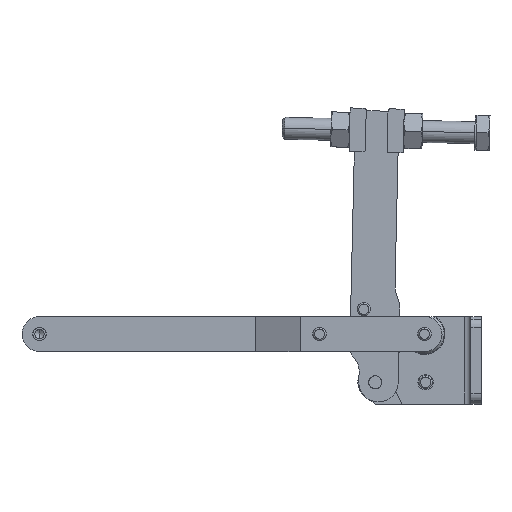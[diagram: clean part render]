
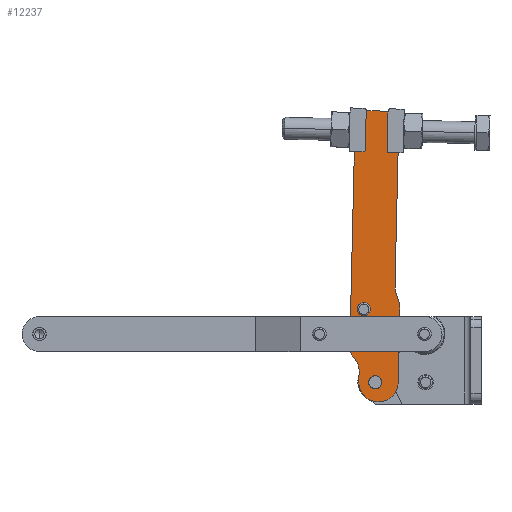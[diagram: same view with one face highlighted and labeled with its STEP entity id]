
A CAD part, left-side view. The second image highlights one B-rep face of the part: STEP entity #12237.
In plain terms, the highlighted planar face has unit normal (-1, 0, 0) as drawn and (0, 0, -1) by its records, which use the part's own axes.
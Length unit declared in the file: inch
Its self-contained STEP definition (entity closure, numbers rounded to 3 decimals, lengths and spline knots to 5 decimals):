
#11806=CARTESIAN_POINT('',(2.743,0.36711,0.0));
#11807=VERTEX_POINT('',#11806);
#11823=CARTESIAN_POINT('',(2.931,0.36711,0.0));
#11824=VERTEX_POINT('',#11823);
#11831=CARTESIAN_POINT('',(2.837,0.36711,0.0));
#11832=DIRECTION('',(0.0,0.0,1.0));
#11833=DIRECTION('',(-1.0,0.0,0.0));
#11834=AXIS2_PLACEMENT_3D('',#11831,#11832,#11833);
#11835=CIRCLE('',#11834,0.094);
#11836=EDGE_CURVE('',#11807,#11824,#11835,.T.);
#11848=CARTESIAN_POINT('',(3.78,0.18011,0.0));
#11849=VERTEX_POINT('',#11848);
#11865=CARTESIAN_POINT('',(3.97,0.18011,0.0));
#11866=VERTEX_POINT('',#11865);
#11873=CARTESIAN_POINT('',(3.875,0.18011,0.0));
#11874=DIRECTION('',(0.0,0.0,1.0));
#11875=DIRECTION('',(-1.0,0.0,0.0));
#11876=AXIS2_PLACEMENT_3D('',#11873,#11874,#11875);
#11877=CIRCLE('',#11876,0.095);
#11878=EDGE_CURVE('',#11849,#11866,#11877,.T.);
#11890=CARTESIAN_POINT('',(3.092,0.24211,0.0));
#11891=VERTEX_POINT('',#11890);
#11907=CARTESIAN_POINT('',(3.282,0.24211,0.0));
#11908=VERTEX_POINT('',#11907);
#11915=CARTESIAN_POINT('',(3.187,0.24211,0.0));
#11916=DIRECTION('',(0.0,0.0,1.0));
#11917=DIRECTION('',(-1.0,0.0,0.0));
#11918=AXIS2_PLACEMENT_3D('',#11915,#11916,#11917);
#11919=CIRCLE('',#11918,0.095);
#11920=EDGE_CURVE('',#11891,#11908,#11919,.T.);
#11930=CARTESIAN_POINT('',(2.56826,-0.07985,0.0));
#11931=VERTEX_POINT('',#11930);
#11940=CARTESIAN_POINT('',(2.65645,-0.10895,0.0));
#11941=VERTEX_POINT('',#11940);
#11942=CARTESIAN_POINT('',(2.47591,-0.50801,0.0));
#11943=DIRECTION('',(0.0,0.0,-1.));
#11944=DIRECTION('',(0.211,0.978,0.0));
#11945=AXIS2_PLACEMENT_3D('',#11942,#11943,#11944);
#11946=CIRCLE('',#11945,0.438);
#11947=EDGE_CURVE('',#11931,#11941,#11946,.T.);
#11972=CARTESIAN_POINT('',(0.01845,0.53666,0.0));
#11973=VERTEX_POINT('',#11972);
#11982=CARTESIAN_POINT('',(0.,0.49211,0.0));
#11983=VERTEX_POINT('',#11982);
#11984=CARTESIAN_POINT('',(0.063,0.49211,0.0));
#11985=DIRECTION('',(0.0,0.0,1.));
#11986=DIRECTION('',(-0.707,0.707,0.0));
#11987=AXIS2_PLACEMENT_3D('',#11984,#11985,#11986);
#11988=CIRCLE('',#11987,0.063);
#11989=EDGE_CURVE('',#11973,#11983,#11988,.T.);
#12014=CARTESIAN_POINT('',(0.01845,-0.05155,0.0));
#12015=VERTEX_POINT('',#12014);
#12024=CARTESIAN_POINT('',(0.063,-0.07001,0.0));
#12025=VERTEX_POINT('',#12024);
#12026=CARTESIAN_POINT('',(0.063,-0.00701,0.0));
#12027=DIRECTION('',(0.0,0.0,1.));
#12028=DIRECTION('',(-0.707,-0.707,0.0));
#12029=AXIS2_PLACEMENT_3D('',#12026,#12027,#12028);
#12030=CIRCLE('',#12029,0.063);
#12031=EDGE_CURVE('',#12015,#12025,#12030,.T.);
#12066=CARTESIAN_POINT('',(0.,-0.00701,0.0));
#12067=VERTEX_POINT('',#12066);
#12074=CARTESIAN_POINT('',(0.063,-0.00701,0.0));
#12075=DIRECTION('',(0.0,0.0,1.));
#12076=DIRECTION('',(-0.707,-0.707,0.0));
#12077=AXIS2_PLACEMENT_3D('',#12074,#12075,#12076);
#12078=CIRCLE('',#12077,0.063);
#12079=EDGE_CURVE('',#12067,#12015,#12078,.T.);
#12090=CARTESIAN_POINT('',(2.47591,-0.07001,0.0));
#12091=VERTEX_POINT('',#12090);
#12092=CARTESIAN_POINT('',(2.47591,-0.07001,0.0));
#12093=DIRECTION('',(-1.0,0.0,0.0));
#12094=VECTOR('',#12093,2.41291);
#12095=LINE('',#12092,#12094);
#12096=EDGE_CURVE('',#12091,#12025,#12095,.T.);
#12115=CARTESIAN_POINT('',(2.01535,0.21762,0.0));
#12116=DIRECTION('',(0.0,0.0,1.0));
#12117=DIRECTION('',(1.0,0.0,0.0));
#12118=AXIS2_PLACEMENT_3D('',#12115,#12116,#12117);
#12119=PLANE('',#12118);
#12120=ORIENTED_EDGE('',*,*,#12079,.F.);
#12121=CARTESIAN_POINT('',(0.,-0.00701,0.0));
#12122=DIRECTION('',(0.0,1.0,0.0));
#12123=VECTOR('',#12122,0.49912);
#12124=LINE('',#12121,#12123);
#12125=EDGE_CURVE('',#12067,#11983,#12124,.T.);
#12126=ORIENTED_EDGE('',*,*,#12125,.T.);
#12127=ORIENTED_EDGE('',*,*,#11989,.F.);
#12128=CARTESIAN_POINT('',(0.063,0.55511,0.0));
#12129=VERTEX_POINT('',#12128);
#12130=CARTESIAN_POINT('',(0.063,0.49211,0.0));
#12131=DIRECTION('',(0.0,0.0,1.));
#12132=DIRECTION('',(-0.707,0.707,0.0));
#12133=AXIS2_PLACEMENT_3D('',#12130,#12131,#12132);
#12134=CIRCLE('',#12133,0.063);
#12135=EDGE_CURVE('',#12129,#11973,#12134,.T.);
#12136=ORIENTED_EDGE('',*,*,#12135,.F.);
#12137=CARTESIAN_POINT('',(3.375,0.55511,0.0));
#12138=VERTEX_POINT('',#12137);
#12139=CARTESIAN_POINT('',(0.063,0.55511,0.0));
#12140=DIRECTION('',(1.0,0.0,0.0));
#12141=VECTOR('',#12140,3.312);
#12142=LINE('',#12139,#12141);
#12143=EDGE_CURVE('',#12129,#12138,#12142,.T.);
#12144=ORIENTED_EDGE('',*,*,#12143,.T.);
#12145=CARTESIAN_POINT('',(3.55756,0.4759,0.0));
#12146=VERTEX_POINT('',#12145);
#12147=CARTESIAN_POINT('',(3.375,0.30511,0.0));
#12148=DIRECTION('',(0.0,0.0,-1.));
#12149=DIRECTION('',(-0.73,-0.683,0.0));
#12150=AXIS2_PLACEMENT_3D('',#12147,#12148,#12149);
#12151=CIRCLE('',#12150,0.25);
#12152=EDGE_CURVE('',#12138,#12146,#12151,.T.);
#12153=ORIENTED_EDGE('',*,*,#12152,.T.);
#12154=CARTESIAN_POINT('',(3.72212,0.41411,0.0));
#12155=VERTEX_POINT('',#12154);
#12156=CARTESIAN_POINT('',(3.72212,0.66411,0.0));
#12157=DIRECTION('',(0.0,0.0,1.));
#12158=DIRECTION('',(-0.658,-0.753,0.0));
#12159=AXIS2_PLACEMENT_3D('',#12156,#12157,#12158);
#12160=CIRCLE('',#12159,0.25);
#12161=EDGE_CURVE('',#12146,#12155,#12160,.T.);
#12162=ORIENTED_EDGE('',*,*,#12161,.T.);
#12163=CARTESIAN_POINT('',(3.875,0.41411,0.0));
#12164=VERTEX_POINT('',#12163);
#12165=CARTESIAN_POINT('',(3.72212,0.41411,0.0));
#12166=DIRECTION('',(1.0,0.0,0.0));
#12167=VECTOR('',#12166,0.15288);
#12168=LINE('',#12165,#12167);
#12169=EDGE_CURVE('',#12155,#12164,#12168,.T.);
#12170=ORIENTED_EDGE('',*,*,#12169,.T.);
#12171=CARTESIAN_POINT('',(3.875,-0.14789,0.0));
#12172=VERTEX_POINT('',#12171);
#12173=CARTESIAN_POINT('',(3.875,0.13311,0.0));
#12174=DIRECTION('',(0.0,0.0,-1.0));
#12175=DIRECTION('',(0.0,1.0,0.0));
#12176=AXIS2_PLACEMENT_3D('',#12173,#12174,#12175);
#12177=CIRCLE('',#12176,0.281);
#12178=EDGE_CURVE('',#12164,#12172,#12177,.T.);
#12179=ORIENTED_EDGE('',*,*,#12178,.T.);
#12180=CARTESIAN_POINT('',(2.837,-0.14789,0.0));
#12181=VERTEX_POINT('',#12180);
#12182=CARTESIAN_POINT('',(3.875,-0.14789,0.0));
#12183=DIRECTION('',(-1.0,0.0,0.0));
#12184=VECTOR('',#12183,1.038);
#12185=LINE('',#12182,#12184);
#12186=EDGE_CURVE('',#12172,#12181,#12185,.T.);
#12187=ORIENTED_EDGE('',*,*,#12186,.T.);
#12188=CARTESIAN_POINT('',(2.837,0.29011,0.0));
#12189=DIRECTION('',(0.0,0.0,-1.0));
#12190=DIRECTION('',(0.569,0.822,0.0));
#12191=AXIS2_PLACEMENT_3D('',#12188,#12189,#12190);
#12192=CIRCLE('',#12191,0.438);
#12193=EDGE_CURVE('',#12181,#11941,#12192,.T.);
#12194=ORIENTED_EDGE('',*,*,#12193,.T.);
#12195=ORIENTED_EDGE('',*,*,#11947,.F.);
#12196=CARTESIAN_POINT('',(2.47591,-0.50801,0.0));
#12197=DIRECTION('',(0.0,0.0,-1.));
#12198=DIRECTION('',(0.211,0.978,0.0));
#12199=AXIS2_PLACEMENT_3D('',#12196,#12197,#12198);
#12200=CIRCLE('',#12199,0.438);
#12201=EDGE_CURVE('',#12091,#11931,#12200,.T.);
#12202=ORIENTED_EDGE('',*,*,#12201,.F.);
#12203=ORIENTED_EDGE('',*,*,#12096,.T.);
#12204=ORIENTED_EDGE('',*,*,#12031,.F.);
#12205=EDGE_LOOP('',(#12120,#12126,#12127,#12136,#12144,#12153,#12162,#12170,#12179,#12187,#12194,#12195,#12202,#12203,#12204));
#12206=FACE_OUTER_BOUND('',#12205,.T.);
#12207=CARTESIAN_POINT('',(3.187,0.24211,0.0));
#12208=DIRECTION('',(0.0,0.0,1.0));
#12209=DIRECTION('',(-1.0,0.0,0.0));
#12210=AXIS2_PLACEMENT_3D('',#12207,#12208,#12209);
#12211=CIRCLE('',#12210,0.095);
#12212=EDGE_CURVE('',#11908,#11891,#12211,.T.);
#12213=ORIENTED_EDGE('',*,*,#12212,.T.);
#12214=ORIENTED_EDGE('',*,*,#11920,.T.);
#12215=EDGE_LOOP('',(#12213,#12214));
#12216=FACE_BOUND('',#12215,.T.);
#12217=CARTESIAN_POINT('',(3.875,0.18011,0.0));
#12218=DIRECTION('',(0.0,0.0,1.0));
#12219=DIRECTION('',(-1.0,0.0,0.0));
#12220=AXIS2_PLACEMENT_3D('',#12217,#12218,#12219);
#12221=CIRCLE('',#12220,0.095);
#12222=EDGE_CURVE('',#11866,#11849,#12221,.T.);
#12223=ORIENTED_EDGE('',*,*,#12222,.T.);
#12224=ORIENTED_EDGE('',*,*,#11878,.T.);
#12225=EDGE_LOOP('',(#12223,#12224));
#12226=FACE_BOUND('',#12225,.T.);
#12227=CARTESIAN_POINT('',(2.837,0.36711,0.0));
#12228=DIRECTION('',(0.0,0.0,1.0));
#12229=DIRECTION('',(-1.0,0.0,0.0));
#12230=AXIS2_PLACEMENT_3D('',#12227,#12228,#12229);
#12231=CIRCLE('',#12230,0.094);
#12232=EDGE_CURVE('',#11824,#11807,#12231,.T.);
#12233=ORIENTED_EDGE('',*,*,#12232,.T.);
#12234=ORIENTED_EDGE('',*,*,#11836,.T.);
#12235=EDGE_LOOP('',(#12233,#12234));
#12236=FACE_BOUND('',#12235,.T.);
#12237=ADVANCED_FACE('',(#12206,#12216,#12226,#12236),#12119,.F.);
